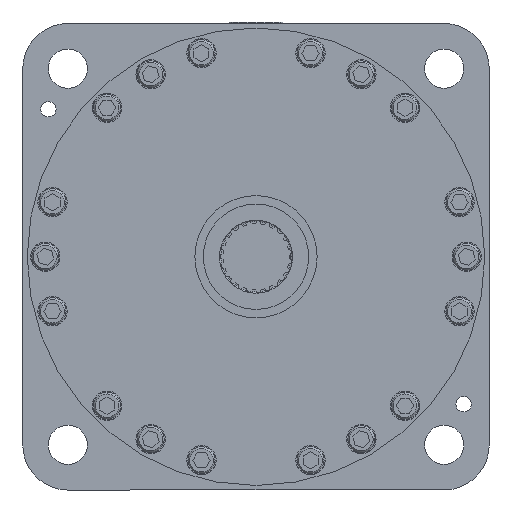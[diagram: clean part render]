
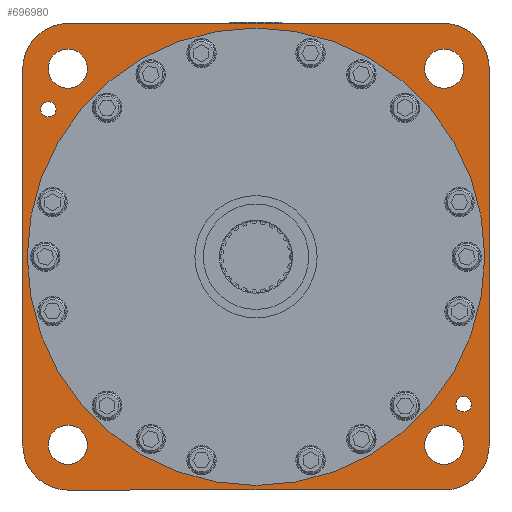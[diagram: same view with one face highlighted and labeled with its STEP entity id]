
A CAD part, left-side view. The second image highlights one B-rep face of the part: STEP entity #696980.
In plain terms, the highlighted planar face has unit normal (-1, 0, 0) as drawn and (0, 0, 1) by its records, which use the part's own axes.
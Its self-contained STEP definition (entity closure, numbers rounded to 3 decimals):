
#693340=CARTESIAN_POINT('',(267.,280.,17.));
#693350=VERTEX_POINT('',#693340);
#693430=CARTESIAN_POINT('',(293.,280.,17.));
#693440=VERTEX_POINT('',#693430);
#693470=CARTESIAN_POINT('',(280.,280.,17.));
#693480=DIRECTION('',(0.,0.,1.));
#693490=DIRECTION('',(1.,0.,0.));
#693500=AXIS2_PLACEMENT_3D('',#693470,#693480,#693490);
#693510=CIRCLE('',#693500,13.);
#693520=EDGE_CURVE('',#693350,#693440,#693510,.T.);
#693660=CARTESIAN_POINT('',(17.,280.,17.));
#693670=VERTEX_POINT('',#693660);
#693750=CARTESIAN_POINT('',(43.,280.,17.));
#693760=VERTEX_POINT('',#693750);
#693790=CARTESIAN_POINT('',(30.,280.,17.));
#693800=DIRECTION('',(0.,0.,1.));
#693810=DIRECTION('',(1.,0.,0.));
#693820=AXIS2_PLACEMENT_3D('',#693790,#693800,#693810);
#693830=CIRCLE('',#693820,13.);
#693840=EDGE_CURVE('',#693670,#693760,#693830,.T.);
#693980=CARTESIAN_POINT('',(17.,30.,17.));
#693990=VERTEX_POINT('',#693980);
#694070=CARTESIAN_POINT('',(43.,30.,17.));
#694080=VERTEX_POINT('',#694070);
#694110=CARTESIAN_POINT('',(30.,30.,17.));
#694120=DIRECTION('',(0.,0.,1.));
#694130=DIRECTION('',(1.,0.,0.));
#694140=AXIS2_PLACEMENT_3D('',#694110,#694120,#694130);
#694150=CIRCLE('',#694140,13.);
#694160=EDGE_CURVE('',#693990,#694080,#694150,.T.);
#694300=CARTESIAN_POINT('',(267.,30.,17.));
#694310=VERTEX_POINT('',#694300);
#694390=CARTESIAN_POINT('',(293.,30.,17.));
#694400=VERTEX_POINT('',#694390);
#694430=CARTESIAN_POINT('',(280.,30.,17.));
#694440=DIRECTION('',(0.,0.,1.));
#694450=DIRECTION('',(1.,0.,0.));
#694460=AXIS2_PLACEMENT_3D('',#694430,#694440,#694450);
#694470=CIRCLE('',#694460,13.);
#694480=EDGE_CURVE('',#694310,#694400,#694470,.T.);
#694620=CARTESIAN_POINT('',(247.875,293.,17.));
#694630=VERTEX_POINT('',#694620);
#694710=CARTESIAN_POINT('',(258.125,293.,17.));
#694720=VERTEX_POINT('',#694710);
#694750=CARTESIAN_POINT('',(253.,293.,17.));
#694760=DIRECTION('',(0.,0.,1.));
#694770=DIRECTION('',(1.,0.,0.));
#694780=AXIS2_PLACEMENT_3D('',#694750,#694760,#694770);
#694790=CIRCLE('',#694780,5.125);
#694800=EDGE_CURVE('',#694630,#694720,#694790,.T.);
#695010=CARTESIAN_POINT('',(51.875,17.,17.));
#695020=VERTEX_POINT('',#695010);
#695100=CARTESIAN_POINT('',(62.125,17.,17.));
#695110=VERTEX_POINT('',#695100);
#695140=CARTESIAN_POINT('',(57.,17.,17.));
#695150=DIRECTION('',(0.,0.,1.));
#695160=DIRECTION('',(1.,0.,0.));
#695170=AXIS2_PLACEMENT_3D('',#695140,#695150,#695160);
#695180=CIRCLE('',#695170,5.125);
#695190=EDGE_CURVE('',#695020,#695110,#695180,.T.);
#695780=CARTESIAN_POINT('',(155.,-63.75,17.));
#695790=DIRECTION('',(-0.,0.,1.));
#695800=DIRECTION('',(0.,-1.,0.));
#695810=AXIS2_PLACEMENT_3D('',#695780,#695790,#695800);
#695820=PLANE('',#695810);
#695830=EDGE_CURVE('',#695110,#695020,#695180,.T.);
#695840=ORIENTED_EDGE('',*,*,#695830,.F.);
#695850=ORIENTED_EDGE('',*,*,#695190,.F.);
#695860=EDGE_LOOP('',(#695850,#695840));
#695870=FACE_BOUND('',#695860,.T.);
#695880=EDGE_CURVE('',#694080,#693990,#694150,.T.);
#695890=ORIENTED_EDGE('',*,*,#695880,.F.);
#695900=ORIENTED_EDGE('',*,*,#694160,.F.);
#695910=EDGE_LOOP('',(#695900,#695890));
#695920=FACE_BOUND('',#695910,.T.);
#695930=EDGE_CURVE('',#694400,#694310,#694470,.T.);
#695940=ORIENTED_EDGE('',*,*,#695930,.F.);
#695950=ORIENTED_EDGE('',*,*,#694480,.F.);
#695960=EDGE_LOOP('',(#695950,#695940));
#695970=FACE_BOUND('',#695960,.T.);
#695980=EDGE_CURVE('',#693760,#693670,#693830,.T.);
#695990=ORIENTED_EDGE('',*,*,#695980,.F.);
#696000=ORIENTED_EDGE('',*,*,#693840,.F.);
#696010=EDGE_LOOP('',(#696000,#695990));
#696020=FACE_BOUND('',#696010,.T.);
#696030=EDGE_CURVE('',#694720,#694630,#694790,.T.);
#696040=ORIENTED_EDGE('',*,*,#696030,.F.);
#696050=ORIENTED_EDGE('',*,*,#694800,.F.);
#696060=EDGE_LOOP('',(#696050,#696040));
#696070=FACE_BOUND('',#696060,.T.);
#696080=EDGE_CURVE('',#693440,#693350,#693510,.T.);
#696090=ORIENTED_EDGE('',*,*,#696080,.F.);
#696100=ORIENTED_EDGE('',*,*,#693520,.F.);
#696110=EDGE_LOOP('',(#696100,#696090));
#696120=FACE_BOUND('',#696110,.T.);
#696130=CARTESIAN_POINT('',(155.,155.,17.));
#696140=DIRECTION('',(0.,0.,1.));
#696150=DIRECTION('',(0.,-1.,0.));
#696160=AXIS2_PLACEMENT_3D('',#696130,#696140,#696150);
#696170=CIRCLE('',#696160,152.);
#696180=CARTESIAN_POINT('',(155.,3.,17.));
#696190=VERTEX_POINT('',#696180);
#696200=CARTESIAN_POINT('',(155.,307.,17.));
#696210=VERTEX_POINT('',#696200);
#696220=EDGE_CURVE('',#696190,#696210,#696170,.T.);
#696230=ORIENTED_EDGE('',*,*,#696220,.F.);
#696240=EDGE_CURVE('',#696210,#696190,#696170,.T.);
#696250=ORIENTED_EDGE('',*,*,#696240,.F.);
#696260=EDGE_LOOP('',(#696250,#696230));
#696270=FACE_BOUND('',#696260,.T.);
#696280=CARTESIAN_POINT('',(0.,0.,17.));
#696290=DIRECTION('',(0.,1.,0.));
#696300=VECTOR('',#696290,1.);
#696310=LINE('',#696280,#696300);
#696320=CARTESIAN_POINT('',(0.,30.,17.));
#696330=VERTEX_POINT('',#696320);
#696340=CARTESIAN_POINT('',(0.,280.,17.));
#696350=VERTEX_POINT('',#696340);
#696360=EDGE_CURVE('',#696330,#696350,#696310,.T.);
#696370=ORIENTED_EDGE('',*,*,#696360,.F.);
#696380=CARTESIAN_POINT('',(30.,280.,17.));
#696390=DIRECTION('',(0.,0.,1.));
#696400=DIRECTION('',(1.,0.,0.));
#696410=AXIS2_PLACEMENT_3D('',#696380,#696390,#696400);
#696420=CIRCLE('',#696410,30.);
#696430=CARTESIAN_POINT('',(30.,310.,17.));
#696440=VERTEX_POINT('',#696430);
#696450=EDGE_CURVE('',#696440,#696350,#696420,.T.);
#696460=ORIENTED_EDGE('',*,*,#696450,.T.);
#696470=CARTESIAN_POINT('',(0.,310.,17.));
#696480=DIRECTION('',(1.,0.,0.));
#696490=VECTOR('',#696480,1.);
#696500=LINE('',#696470,#696490);
#696510=CARTESIAN_POINT('',(280.,310.,17.));
#696520=VERTEX_POINT('',#696510);
#696530=EDGE_CURVE('',#696440,#696520,#696500,.T.);
#696540=ORIENTED_EDGE('',*,*,#696530,.F.);
#696550=CARTESIAN_POINT('',(280.,280.,17.));
#696560=DIRECTION('',(0.,0.,1.));
#696570=DIRECTION('',(1.,0.,0.));
#696580=AXIS2_PLACEMENT_3D('',#696550,#696560,#696570);
#696590=CIRCLE('',#696580,30.);
#696600=CARTESIAN_POINT('',(310.,280.,17.));
#696610=VERTEX_POINT('',#696600);
#696620=EDGE_CURVE('',#696610,#696520,#696590,.T.);
#696630=ORIENTED_EDGE('',*,*,#696620,.T.);
#696640=CARTESIAN_POINT('',(310.,0.,17.));
#696650=DIRECTION('',(0.,-1.,0.));
#696660=VECTOR('',#696650,1.);
#696670=LINE('',#696640,#696660);
#696680=CARTESIAN_POINT('',(310.,30.,17.));
#696690=VERTEX_POINT('',#696680);
#696700=EDGE_CURVE('',#696610,#696690,#696670,.T.);
#696710=ORIENTED_EDGE('',*,*,#696700,.F.);
#696720=CARTESIAN_POINT('',(280.,30.,17.));
#696730=DIRECTION('',(0.,0.,1.));
#696740=DIRECTION('',(1.,0.,0.));
#696750=AXIS2_PLACEMENT_3D('',#696720,#696730,#696740);
#696760=CIRCLE('',#696750,30.);
#696770=CARTESIAN_POINT('',(280.,0.,17.));
#696780=VERTEX_POINT('',#696770);
#696790=EDGE_CURVE('',#696780,#696690,#696760,.T.);
#696800=ORIENTED_EDGE('',*,*,#696790,.T.);
#696810=CARTESIAN_POINT('',(0.,0.,17.));
#696820=DIRECTION('',(-1.,0.,0.));
#696830=VECTOR('',#696820,1.);
#696840=LINE('',#696810,#696830);
#696850=CARTESIAN_POINT('',(30.,0.,17.));
#696860=VERTEX_POINT('',#696850);
#696870=EDGE_CURVE('',#696780,#696860,#696840,.T.);
#696880=ORIENTED_EDGE('',*,*,#696870,.F.);
#696890=CARTESIAN_POINT('',(30.,30.,17.));
#696900=DIRECTION('',(0.,0.,1.));
#696910=DIRECTION('',(1.,0.,0.));
#696920=AXIS2_PLACEMENT_3D('',#696890,#696900,#696910);
#696930=CIRCLE('',#696920,30.);
#696940=EDGE_CURVE('',#696330,#696860,#696930,.T.);
#696950=ORIENTED_EDGE('',*,*,#696940,.T.);
#696960=EDGE_LOOP('',(#696950,#696880,#696800,#696710,#696630,#696540,
#696460,#696370));
#696970=FACE_OUTER_BOUND('',#696960,.T.);
#696980=ADVANCED_FACE('',(#695870,#695920,#695970,#696020,#696070,
#696120,#696270,#696970),#695820,.T.);
